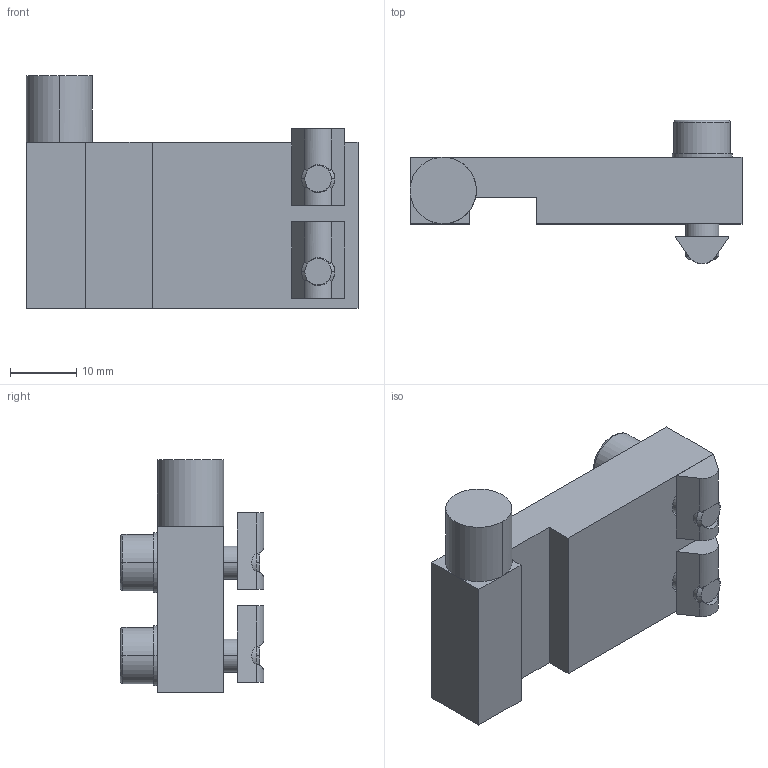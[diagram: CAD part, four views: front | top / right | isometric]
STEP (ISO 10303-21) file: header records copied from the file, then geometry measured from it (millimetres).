
FILE_DESCRIPTION((''),'2;1');
FILE_NAME('L4CB0018_GESP_SW0001','2005-12-15T',('OZ38835'),(''),'PRO/ENGINEER BY PARAMETRIC TECHNOLOGY CORPORATION, 2005030','PRO/ENGINEER BY PARAMETRIC TECHNOLOGY CORPORATION, 2005030','');
FILE_SCHEMA(('AUTOMOTIVE_DESIGN_CC2 { 1 2 10303 214 -1 1 5 2 }'));
Length unit declared in the file: millimetre
Products named in the file (1): L4CB0018_GESP_SW0001
Bounding box: 50 x 21.6 x 35 mm (x, y, z)
Volume: 13172.3 mm3; surface area: 6205.5 mm2
Topology: 1 solids, 1 shells, 96 faces, 226 edges, 147 vertices
Faces by surface type: plane 50, cylinder 36, cone 6, torus 4
Entity records: 3862 total; most frequent: CARTESIAN_POINT 689, DIRECTION 477, ORIENTED_EDGE 452, PRESENTATION_STYLE_ASSIGNMENT 248, STYLED_ITEM 229, CURVE_STYLE 226, EDGE_CURVE 226, AXIS2_PLACEMENT_3D 179
